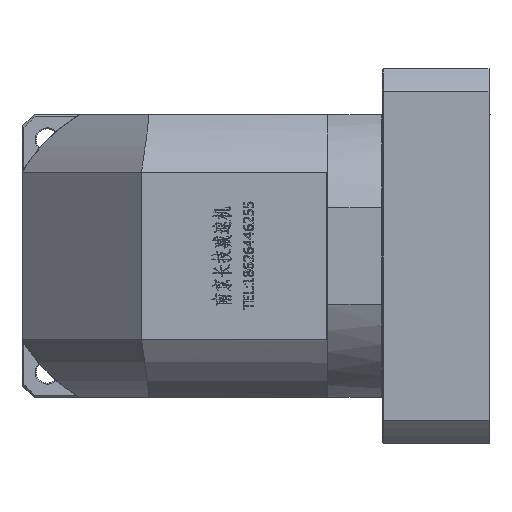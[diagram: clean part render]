
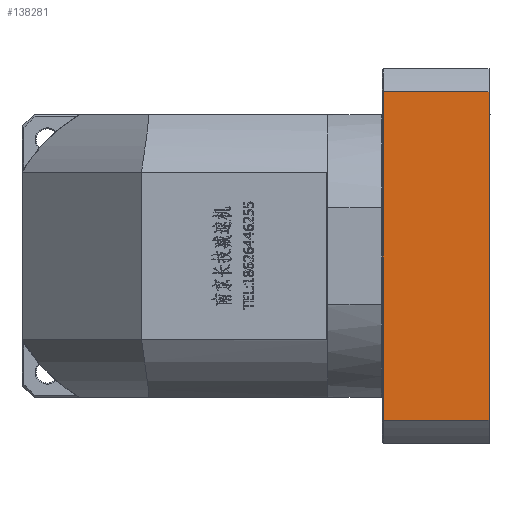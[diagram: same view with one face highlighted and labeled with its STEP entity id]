
A CAD part, left-side view. The second image highlights one B-rep face of the part: STEP entity #138281.
In plain terms, the highlighted planar face has unit normal (-1, 0, 0).
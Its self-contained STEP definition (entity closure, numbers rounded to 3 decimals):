
#8256 = VERTEX_POINT ( 'NONE', #148600 ) ;
#17448 = CARTESIAN_POINT ( 'NONE',  ( -334.551, -14.486, 47.229 ) ) ;
#18247 = VERTEX_POINT ( 'NONE', #27524 ) ;
#25353 = CARTESIAN_POINT ( 'NONE',  ( -334.551, -13.986, -117.562 ) ) ;
#27524 = CARTESIAN_POINT ( 'NONE',  ( -334.551, -13.986, 47.229 ) ) ;
#31512 = LINE ( 'NONE', #100654, #131891 ) ;
#38027 = EDGE_CURVE ( 'NONE', #18247, #104968, #141007, .T. ) ;
#48864 = EDGE_CURVE ( 'NONE', #104968, #8256, #158699, .T. ) ;
#51627 = EDGE_CURVE ( 'NONE', #55230, #8256, #31512, .T. ) ;
#55230 = VERTEX_POINT ( 'NONE', #82960 ) ;
#58503 = DIRECTION ( 'NONE',  ( 0., 0., -1. ) ) ;
#72370 = EDGE_CURVE ( 'NONE', #55230, #18247, #137064, .T. ) ;
#74824 = DIRECTION ( 'NONE',  ( 0., 1., 0. ) ) ;
#76877 = EDGE_LOOP ( 'NONE', ( #162353, #130175, #167609, #132046 ) ) ;
#82960 = CARTESIAN_POINT ( 'NONE',  ( -334.551, 39.014, 47.229 ) ) ;
#86350 = CARTESIAN_POINT ( 'NONE',  ( -334.551, -13.986, -129.167 ) ) ;
#100654 = CARTESIAN_POINT ( 'NONE',  ( -334.551, 39.014, -129.167 ) ) ;
#102285 = VECTOR ( 'NONE', #74824, 1000. ) ;
#103019 = FACE_OUTER_BOUND ( 'NONE', #76877, .T. ) ;
#103039 = DIRECTION ( 'NONE',  ( 1., 0., 0. ) ) ;
#104968 = VERTEX_POINT ( 'NONE', #25353 ) ;
#111680 = CARTESIAN_POINT ( 'NONE',  ( -334.551, 396.603, -117.562 ) ) ;
#113777 = DIRECTION ( 'NONE',  ( 0., 0., -1. ) ) ;
#128161 = DIRECTION ( 'NONE',  ( 0., 1., 0. ) ) ;
#130175 = ORIENTED_EDGE ( 'NONE', *, *, #51627, .T. ) ;
#131891 = VECTOR ( 'NONE', #58503, 1000. ) ;
#132046 = ORIENTED_EDGE ( 'NONE', *, *, #38027, .F. ) ;
#137064 = LINE ( 'NONE', #17448, #147453 ) ;
#138281 = ADVANCED_FACE ( 'NONE', ( #103019 ), #155147, .F. ) ;
#141007 = LINE ( 'NONE', #86350, #166209 ) ;
#141643 = CARTESIAN_POINT ( 'NONE',  ( -334.551, -14.486, -129.167 ) ) ;
#147453 = VECTOR ( 'NONE', #151343, 1000. ) ;
#148600 = CARTESIAN_POINT ( 'NONE',  ( -334.551, 39.014, -117.562 ) ) ;
#151343 = DIRECTION ( 'NONE',  ( 0., -1., 0. ) ) ;
#155147 = PLANE ( 'NONE',  #166963 ) ;
#158699 = LINE ( 'NONE', #111680, #102285 ) ;
#162353 = ORIENTED_EDGE ( 'NONE', *, *, #72370, .F. ) ;
#166209 = VECTOR ( 'NONE', #113777, 1000. ) ;
#166963 = AXIS2_PLACEMENT_3D ( 'NONE', #141643, #103039, #128161 ) ;
#167609 = ORIENTED_EDGE ( 'NONE', *, *, #48864, .F. ) ;
